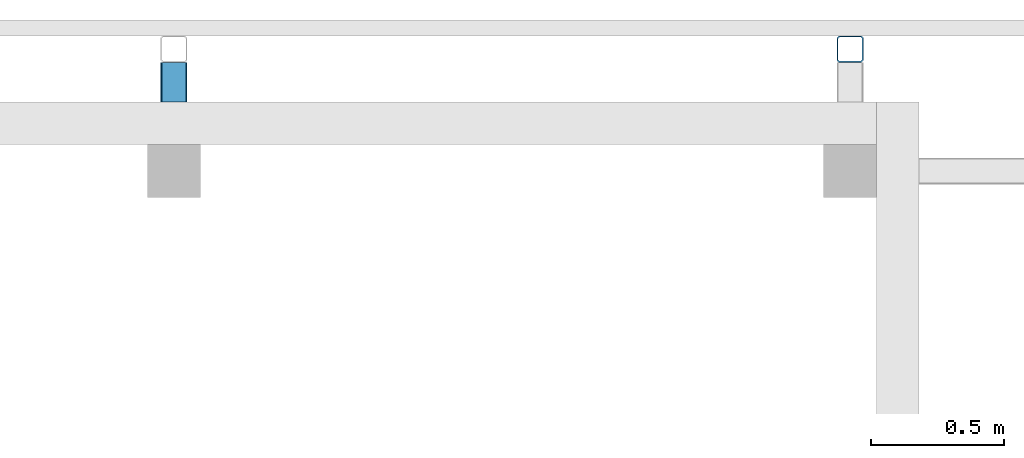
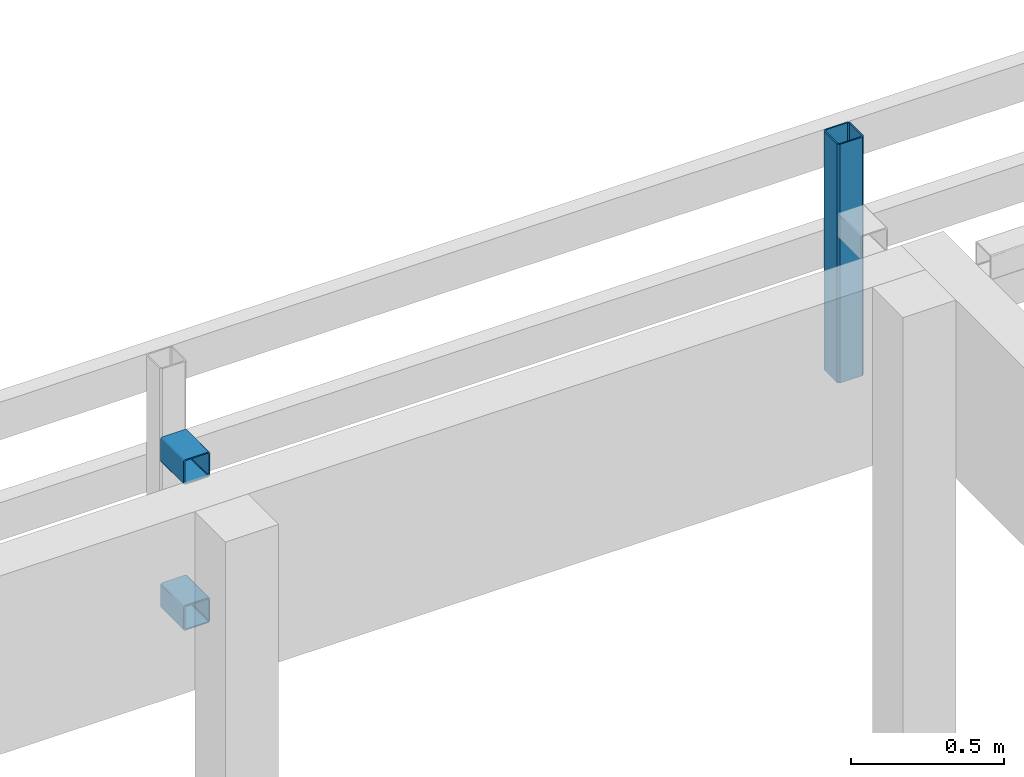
# One storey, part 40 of 42: 3 members.
"""IFC4 building model written with IfcOpenShell, lengths in metres."""

from ifc_helpers import new_model, entity, si_unit, converted_unit, derived_unit, frame, origin, place, context, subcontext, project, spatial, faceted_brep, material, element, save


model = new_model("IFC4")

# Units and contexts
model_context = context("Model", 3, precision=1e-05, world=origin())
plan_context = context("Plan", 2, precision=1e-05, world=origin())
body_context = subcontext(model_context, "Body", "Model", "MODEL_VIEW")
ifc_project = project(units=[si_unit("LENGTHUNIT", "METRE"), si_unit("AREAUNIT", "SQUARE_METRE"), si_unit("VOLUMEUNIT", "CUBIC_METRE"), si_unit("MASSUNIT", "GRAM", prefix="KILO"), converted_unit("PLANEANGLEUNIT", "DEGREE", entity("IfcPlaneAngleMeasure", 0.0174532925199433), si_unit("PLANEANGLEUNIT", "RADIAN"), dimensions=[0, 0, 0, 0, 0, 0, 0]), derived_unit("THERMALTRANSMITTANCEUNIT", [(si_unit("POWERUNIT", "WATT"), 1), (si_unit("THERMODYNAMICTEMPERATUREUNIT", "KELVIN"), -1), (si_unit("LENGTHUNIT", "METRE"), -2)]), derived_unit("VOLUMETRICFLOWRATEUNIT", [(si_unit("LENGTHUNIT", "METRE"), 3), (converted_unit("TIMEUNIT", "hour", entity("IfcTimeMeasure", 3600.0), si_unit("TIMEUNIT", "SECOND"), dimensions=[0, 0, 1, 0, 0, 0, 0]), -1), (si_unit("LENGTHUNIT", "METRE"), -1)])], contexts=[model_context, plan_context])

# Site, building, storey
site_placement = place(None, origin())
site = spatial("IfcSite", under=ifc_project, at=site_placement, Name="Site", CompositionType="ELEMENT")
building_placement = place(site_placement, origin())
building = spatial("IfcBuilding", under=site, at=building_placement, Name="Admin", CompositionType="ELEMENT")
storey_placement = place(building_placement, frame((0.0, 0.0, 6.61)))
storey = spatial("IfcBuildingStorey", under=building, at=storey_placement, Name="02-Etage2", CompositionType="ELEMENT", Elevation=6.61)

# Members
ifc_material_1 = material(Name="S235")
member_1_placement = place(storey_placement, frame((57.9097996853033, 22.4994493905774, 2.28)))
element("IfcMember", 1, at=member_1_placement, inside=storey, material=ifc_material_1, Name="Bandeau R+2", context=body_context, shape_type="Brep", body=[
    faceted_brep([(0.09, 0.005, 0.0), (0.09, 0.005, 0.95), (0.01, 0.005, 0.95), (0.01, 0.005, 0.0), (0.095, 0.01, 0.0), (0.095, 0.01, 0.95), (0.095, 0.09, 0.0), (0.095, 0.09, 0.95), (0.09, 0.095, 0.0), (0.09, 0.095, 0.95), (0.01, 0.095, 0.0), (0.01, 0.095, 0.95), (0.005, 0.09, 0.0), (0.005, 0.09, 0.95), (0.005, 0.01, 0.0), (0.005, 0.01, 0.95), (0.0, 0.0075, 0.0), (0.0, 0.0075, 0.95), (0.0075, 0.0, 0.95), (0.0075, 0.0, 0.0), (0.0, 0.0925, 0.0), (0.0, 0.0925, 0.95), (0.0075, 0.1, 0.0), (0.0075, 0.1, 0.95), (0.0925, 0.1, 0.0), (0.0925, 0.1, 0.95), (0.1, 0.0925, 0.0), (0.1, 0.0925, 0.95), (0.1, 0.0075, 0.0), (0.1, 0.0075, 0.95), (0.0925, 0.0, 0.0), (0.0925, 0.0, 0.95)], [[[0, 1, 2, 3]], [[4, 5, 1, 0]], [[6, 7, 5, 4]], [[8, 9, 7, 6]], [[10, 11, 9, 8]], [[12, 13, 11, 10]], [[14, 15, 13, 12]], [[3, 2, 15, 14]], [[16, 17, 18, 19]], [[20, 21, 17, 16]], [[22, 23, 21, 20]], [[24, 25, 23, 22]], [[26, 27, 25, 24]], [[28, 29, 27, 26]], [[30, 31, 29, 28]], [[19, 18, 31, 30]], [[18, 17, 21, 23, 25, 27, 29, 31], [2, 1, 5, 7, 9, 11, 13, 15]], [[19, 30, 28, 26, 24, 22, 20, 16], [3, 14, 12, 10, 8, 6, 4, 0]]], orient=[[False], [False], [False], [False], [False], [False], [False], [False], [False], [False], [False], [False], [False], [False], [False], [False], [False, False], [False, False]]),
])
ifc_material_2 = material(Name="S235")
member_2_placement = place(storey_placement, frame((55.3598005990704, 22.3494493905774, 2.86)))
element("IfcMember", 2, at=member_2_placement, inside=storey, material=ifc_material_2, Name="Bandeau R+2", context=body_context, shape_type="Brep", body=[
    faceted_brep([(0.00500000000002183, 0.149999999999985, 0.09), (0.00500000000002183, 0.149999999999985, 0.01), (0.005, 1.09139364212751e-14, 0.01), (0.005, 1.09139364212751e-14, 0.09), (0.0050759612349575, 0.149999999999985, 0.0908682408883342), (0.00507596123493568, 1.09139364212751e-14, 0.0908682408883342), (0.00530153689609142, 0.149999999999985, 0.0917101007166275), (0.00530153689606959, 1.09139364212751e-14, 0.0917101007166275), (0.00566987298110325, 0.149999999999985, 0.0925), (0.00566987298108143, 1.09139364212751e-14, 0.0925), (0.00616977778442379, 0.149999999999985, 0.0932139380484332), (0.00616977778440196, 1.09139364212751e-14, 0.0932139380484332), (0.00678606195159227, 0.149999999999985, 0.0938302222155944), (0.00678606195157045, 1.09139364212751e-14, 0.0938302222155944), (0.00750000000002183, 0.149999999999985, 0.0943301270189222), (0.0075, 1.09139364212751e-14, 0.0943301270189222), (0.00828989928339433, 0.149999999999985, 0.0946984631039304), (0.00828989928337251, 1.09139364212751e-14, 0.0946984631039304), (0.00913175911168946, 0.149999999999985, 0.0949240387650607), (0.00913175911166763, 1.09139364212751e-14, 0.0949240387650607), (0.0100000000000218, 0.149999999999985, 0.095), (0.01, 1.09139364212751e-14, 0.095), (0.0900000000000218, 0.149999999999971, 0.095), (0.09, -3.63797880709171e-15, 0.095), (0.0908682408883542, 0.149999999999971, 0.0949240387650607), (0.0908682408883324, -3.63797880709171e-15, 0.0949240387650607), (0.0917101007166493, 0.149999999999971, 0.0946984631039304), (0.0917101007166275, -3.63797880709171e-15, 0.0946984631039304), (0.0925000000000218, 0.149999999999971, 0.0943301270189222), (0.0925, -3.63797880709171e-15, 0.0943301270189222), (0.0932139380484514, 0.149999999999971, 0.0938302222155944), (0.0932139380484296, -3.63797880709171e-15, 0.0938302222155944), (0.0938302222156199, 0.149999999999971, 0.0932139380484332), (0.093830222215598, -3.63797880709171e-15, 0.0932139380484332), (0.0943301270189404, 0.149999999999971, 0.0925), (0.0943301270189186, -3.63797880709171e-15, 0.0925), (0.0946984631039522, 0.149999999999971, 0.0917101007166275), (0.0946984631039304, -3.63797880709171e-15, 0.0917101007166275), (0.0949240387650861, 0.149999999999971, 0.0908682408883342), (0.0949240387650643, -3.63797880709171e-15, 0.0908682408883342), (0.0950000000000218, 0.149999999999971, 0.09), (0.095, -3.63797880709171e-15, 0.09), (0.0950000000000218, 0.149999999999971, 0.01), (0.095, -3.63797880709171e-15, 0.01), (0.0949240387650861, 0.149999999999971, 0.00913175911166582), (0.0949240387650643, -3.63797880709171e-15, 0.00913175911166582), (0.0946984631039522, 0.149999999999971, 0.00828989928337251), (0.0946984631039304, -3.63797880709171e-15, 0.00828989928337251), (0.0943301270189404, 0.149999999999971, 0.0075), (0.0943301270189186, -3.63797880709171e-15, 0.0075), (0.0938302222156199, 0.149999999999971, 0.00678606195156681), (0.093830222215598, -3.63797880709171e-15, 0.00678606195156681), (0.0932139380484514, 0.149999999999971, 0.0061697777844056), (0.0932139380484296, -3.63797880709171e-15, 0.0061697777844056), (0.0925000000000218, 0.149999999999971, 0.00566987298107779), (0.0925, -3.63797880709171e-15, 0.00566987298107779), (0.0917101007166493, 0.149999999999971, 0.00530153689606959), (0.0917101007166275, -3.63797880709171e-15, 0.00530153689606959), (0.0908682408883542, 0.149999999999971, 0.00507596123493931), (0.0908682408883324, -3.63797880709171e-15, 0.00507596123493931), (0.0900000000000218, 0.149999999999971, 0.005), (0.09, -3.63797880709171e-15, 0.005), (0.0100000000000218, 0.149999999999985, 0.005), (0.01, 1.09139364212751e-14, 0.005), (0.00913175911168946, 0.149999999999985, 0.00507596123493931), (0.00913175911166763, 1.09139364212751e-14, 0.00507596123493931), (0.00828989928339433, 0.149999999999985, 0.00530153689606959), (0.00828989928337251, 1.09139364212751e-14, 0.00530153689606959), (0.00750000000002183, 0.149999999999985, 0.00566987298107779), (0.0075, 1.09139364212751e-14, 0.00566987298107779), (0.00678606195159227, 0.149999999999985, 0.0061697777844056), (0.00678606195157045, 1.09139364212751e-14, 0.0061697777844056), (0.00616977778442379, 0.149999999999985, 0.00678606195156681), (0.00616977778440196, 1.09139364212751e-14, 0.00678606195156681), (0.00566987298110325, 0.149999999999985, 0.0075), (0.00566987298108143, 1.09139364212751e-14, 0.0075), (0.00530153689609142, 0.149999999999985, 0.00828989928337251), (0.00530153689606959, 1.09139364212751e-14, 0.00828989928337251), (0.0050759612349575, 0.149999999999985, 0.00913175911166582), (0.00507596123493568, 1.09139364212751e-14, 0.00913175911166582), (0.0925000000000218, 0.149999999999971, 0.1), (0.0938023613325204, 0.149999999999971, 0.099886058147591), (0.0938023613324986, -3.63797880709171e-15, 0.099886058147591), (0.0925, -3.63797880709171e-15, 0.1), (0.00750000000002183, 0.149999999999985, 0.1), (0.0075, 1.09139364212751e-14, 0.1), (0.00619763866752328, 0.149999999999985, 0.099886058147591), (0.00619763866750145, 1.09139364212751e-14, 0.099886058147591), (0.00493484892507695, 0.149999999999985, 0.0995476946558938), (0.00493484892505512, 1.09139364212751e-14, 0.0995476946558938), (0.00375000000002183, 0.149999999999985, 0.0989951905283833), (0.00375, 1.09139364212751e-14, 0.0989951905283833), (0.00267909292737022, 0.149999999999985, 0.0982453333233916), (0.00267909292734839, 1.09139364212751e-14, 0.0982453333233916), (0.0017546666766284, 0.149999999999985, 0.0973209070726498), (0.00175466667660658, 1.09139364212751e-14, 0.0973209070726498), (0.00100480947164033, 0.149999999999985, 0.09625), (0.0010048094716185, 1.09139364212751e-14, 0.09625), (0.000452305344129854, 0.149999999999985, 0.0950651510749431), (0.000452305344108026, 1.09139364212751e-14, 0.0950651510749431), (0.000113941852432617, 0.149999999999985, 0.0938023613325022), (0.00011394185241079, 1.09139364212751e-14, 0.0938023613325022), (2.18278728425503e-14, 0.149999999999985, 0.0925), (0.0, 1.09139364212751e-14, 0.0925), (0.000113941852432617, 0.149999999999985, 0.00619763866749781), (2.18278728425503e-14, 0.149999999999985, 0.0075), (0.0, 1.09139364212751e-14, 0.0075), (0.00011394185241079, 1.09139364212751e-14, 0.00619763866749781), (0.000452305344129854, 0.149999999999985, 0.00493484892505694), (0.000452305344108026, 1.09139364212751e-14, 0.00493484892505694), (0.00100480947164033, 0.149999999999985, 0.00375), (0.0010048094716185, 1.09139364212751e-14, 0.00375), (0.0017546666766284, 0.149999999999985, 0.00267909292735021), (0.00175466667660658, 1.09139364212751e-14, 0.00267909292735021), (0.00267909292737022, 0.149999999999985, 0.00175466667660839), (0.00267909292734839, 1.09139364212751e-14, 0.00175466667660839), (0.00375000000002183, 0.149999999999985, 0.00100480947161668), (0.00375, 1.09139364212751e-14, 0.00100480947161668), (0.00493484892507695, 0.149999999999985, 0.000452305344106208), (0.00493484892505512, 1.09139364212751e-14, 0.000452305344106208), (0.00619763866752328, 0.149999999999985, 0.000113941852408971), (0.00619763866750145, 1.09139364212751e-14, 0.000113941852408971), (0.00750000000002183, 0.149999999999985, 0.0), (0.0075, 1.09139364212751e-14, 0.0), (0.0925000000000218, 0.149999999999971, 0.0), (0.0925, -3.63797880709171e-15, 0.0), (0.0938023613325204, 0.149999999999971, 0.000113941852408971), (0.0938023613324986, -3.63797880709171e-15, 0.000113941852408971), (0.0950651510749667, 0.149999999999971, 0.000452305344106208), (0.0950651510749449, -3.63797880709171e-15, 0.000452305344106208), (0.0962500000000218, 0.149999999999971, 0.00100480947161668), (0.09625, -3.63797880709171e-15, 0.00100480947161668), (0.0973209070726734, 0.149999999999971, 0.00175466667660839), (0.0973209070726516, -3.63797880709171e-15, 0.00175466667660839), (0.0982453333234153, 0.149999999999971, 0.00267909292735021), (0.0982453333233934, -3.63797880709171e-15, 0.00267909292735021), (0.0989951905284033, 0.149999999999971, 0.00375), (0.0989951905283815, -3.63797880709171e-15, 0.00375), (0.0995476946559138, 0.149999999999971, 0.00493484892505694), (0.099547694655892, -3.63797880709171e-15, 0.00493484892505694), (0.099886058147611, 0.149999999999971, 0.00619763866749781), (0.0998860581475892, -3.63797880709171e-15, 0.00619763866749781), (0.100000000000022, 0.149999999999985, 0.0075), (0.1, -3.63797880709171e-15, 0.0075), (0.099886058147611, 0.149999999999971, 0.0938023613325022), (0.100000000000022, 0.149999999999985, 0.0925), (0.1, -3.63797880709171e-15, 0.0925), (0.0998860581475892, -3.63797880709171e-15, 0.0938023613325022), (0.0995476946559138, 0.149999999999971, 0.0950651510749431), (0.099547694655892, -3.63797880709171e-15, 0.0950651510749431), (0.0989951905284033, 0.149999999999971, 0.09625), (0.0989951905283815, -3.63797880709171e-15, 0.09625), (0.0982453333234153, 0.149999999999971, 0.0973209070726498), (0.0982453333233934, -3.63797880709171e-15, 0.0973209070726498), (0.0973209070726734, 0.149999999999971, 0.0982453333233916), (0.0973209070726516, -3.63797880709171e-15, 0.0982453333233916), (0.0962500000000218, 0.149999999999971, 0.0989951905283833), (0.09625, -3.63797880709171e-15, 0.0989951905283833), (0.0950651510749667, 0.149999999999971, 0.0995476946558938), (0.0950651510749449, -3.63797880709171e-15, 0.0995476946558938)], [[[0, 1, 2, 3]], [[4, 0, 3, 5]], [[6, 4, 5, 7]], [[8, 6, 7, 9]], [[10, 8, 9, 11]], [[12, 10, 11, 13]], [[14, 12, 13, 15]], [[16, 14, 15, 17]], [[18, 16, 17, 19]], [[20, 18, 19, 21]], [[22, 20, 21, 23]], [[24, 22, 23, 25]], [[26, 24, 25, 27]], [[28, 26, 27, 29]], [[30, 28, 29, 31]], [[32, 30, 31, 33]], [[34, 32, 33, 35]], [[36, 34, 35, 37]], [[38, 36, 37, 39]], [[40, 38, 39, 41]], [[42, 40, 41, 43]], [[44, 42, 43, 45]], [[46, 44, 45, 47]], [[48, 46, 47, 49]], [[50, 48, 49, 51]], [[52, 50, 51, 53]], [[54, 52, 53, 55]], [[56, 54, 55, 57]], [[58, 56, 57, 59]], [[60, 58, 59, 61]], [[62, 60, 61, 63]], [[64, 62, 63, 65]], [[66, 64, 65, 67]], [[68, 66, 67, 69]], [[70, 68, 69, 71]], [[72, 70, 71, 73]], [[74, 72, 73, 75]], [[76, 74, 75, 77]], [[78, 76, 77, 79]], [[1, 78, 79, 2]], [[80, 81, 82, 83]], [[84, 80, 83, 85]], [[86, 84, 85, 87]], [[88, 86, 87, 89]], [[90, 88, 89, 91]], [[92, 90, 91, 93]], [[94, 92, 93, 95]], [[96, 94, 95, 97]], [[98, 96, 97, 99]], [[100, 98, 99, 101]], [[102, 100, 101, 103]], [[104, 105, 106, 107]], [[108, 104, 107, 109]], [[110, 108, 109, 111]], [[112, 110, 111, 113]], [[114, 112, 113, 115]], [[116, 114, 115, 117]], [[118, 116, 117, 119]], [[120, 118, 119, 121]], [[122, 120, 121, 123]], [[124, 122, 123, 125]], [[126, 124, 125, 127]], [[128, 126, 127, 129]], [[130, 128, 129, 131]], [[132, 130, 131, 133]], [[134, 132, 133, 135]], [[136, 134, 135, 137]], [[138, 136, 137, 139]], [[140, 138, 139, 141]], [[142, 140, 141, 143]], [[144, 145, 146, 147]], [[148, 144, 147, 149]], [[150, 148, 149, 151]], [[152, 150, 151, 153]], [[154, 152, 153, 155]], [[156, 154, 155, 157]], [[158, 156, 157, 159]], [[81, 158, 159, 82]], [[146, 143, 141, 139, 137, 135, 133, 131, 129, 127, 125, 123, 121, 119, 117, 115, 113, 111, 109, 107, 106, 103, 101, 99, 97, 95, 93, 91, 89, 87, 85, 83, 82, 159, 157, 155, 153, 151, 149, 147], [2, 79, 77, 75, 73, 71, 69, 67, 65, 63, 61, 59, 57, 55, 53, 51, 49, 47, 45, 43, 41, 39, 37, 35, 33, 31, 29, 27, 25, 23, 21, 19, 17, 15, 13, 11, 9, 7, 5, 3]], [[103, 106, 105, 102]], [[102, 105, 104, 108, 110, 112, 114, 116, 118, 120, 122, 124, 126, 128, 130, 132, 134, 136, 138, 140, 142, 145, 144, 148, 150, 152, 154, 156, 158, 81, 80, 84, 86, 88, 90, 92, 94, 96, 98, 100], [1, 0, 4, 6, 8, 10, 12, 14, 16, 18, 20, 22, 24, 26, 28, 30, 32, 34, 36, 38, 40, 42, 44, 46, 48, 50, 52, 54, 56, 58, 60, 62, 64, 66, 68, 70, 72, 74, 76, 78]], [[145, 142, 143, 146]]], orient=[[False], [False], [False], [False], [False], [False], [False], [False], [False], [False], [False], [False], [False], [False], [False], [False], [False], [False], [False], [False], [False], [False], [False], [False], [False], [False], [False], [False], [False], [False], [False], [False], [False], [False], [False], [False], [False], [False], [False], [False], [False], [False], [False], [False], [False], [False], [False], [False], [False], [False], [False], [False], [False], [False], [False], [False], [False], [False], [False], [False], [False], [False], [False], [False], [False], [False], [False], [False], [False], [False], [False], [False], [False], [False], [False], [False], [False], [False], [False, False], [False], [False, False], [False]]),
])
ifc_material_3 = material(Name="S235")
member_3_placement = place(storey_placement, frame((55.3598005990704, 22.3494493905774, 2.28)))
element("IfcMember", 3, at=member_3_placement, inside=storey, material=ifc_material_3, Name="Bandeau R+2", context=body_context, shape_type="Brep", body=[
    faceted_brep([(0.00500000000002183, 0.15, 0.09), (0.00500000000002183, 0.15, 0.01), (0.005, 1.81898940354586e-14, 0.01), (0.005, 1.81898940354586e-14, 0.09), (0.0050759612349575, 0.15, 0.0908682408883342), (0.00507596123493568, 1.81898940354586e-14, 0.0908682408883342), (0.00530153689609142, 0.15, 0.0917101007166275), (0.00530153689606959, 1.81898940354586e-14, 0.0917101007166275), (0.00566987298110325, 0.15, 0.0925), (0.00566987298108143, 1.81898940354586e-14, 0.0925), (0.00616977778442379, 0.15, 0.0932139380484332), (0.00616977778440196, 1.81898940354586e-14, 0.0932139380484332), (0.00678606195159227, 0.15, 0.0938302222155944), (0.00678606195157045, 1.81898940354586e-14, 0.0938302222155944), (0.00750000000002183, 0.15, 0.0943301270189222), (0.0075, 1.81898940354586e-14, 0.0943301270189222), (0.00828989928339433, 0.15, 0.0946984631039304), (0.00828989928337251, 1.81898940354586e-14, 0.0946984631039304), (0.00913175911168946, 0.15, 0.0949240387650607), (0.00913175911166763, 1.81898940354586e-14, 0.0949240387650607), (0.0100000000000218, 0.15, 0.095), (0.01, 1.81898940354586e-14, 0.095), (0.0900000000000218, 0.149999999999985, 0.095), (0.09, 3.63797880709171e-15, 0.095), (0.0908682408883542, 0.149999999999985, 0.0949240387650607), (0.0908682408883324, 3.63797880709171e-15, 0.0949240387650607), (0.0917101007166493, 0.149999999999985, 0.0946984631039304), (0.0917101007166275, 3.63797880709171e-15, 0.0946984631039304), (0.0925000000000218, 0.149999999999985, 0.0943301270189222), (0.0925, 3.63797880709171e-15, 0.0943301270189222), (0.0932139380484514, 0.149999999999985, 0.0938302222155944), (0.0932139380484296, 3.63797880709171e-15, 0.0938302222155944), (0.0938302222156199, 0.149999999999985, 0.0932139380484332), (0.093830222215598, 3.63797880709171e-15, 0.0932139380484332), (0.0943301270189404, 0.149999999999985, 0.0925), (0.0943301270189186, 3.63797880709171e-15, 0.0925), (0.0946984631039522, 0.149999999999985, 0.0917101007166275), (0.0946984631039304, 3.63797880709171e-15, 0.0917101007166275), (0.0949240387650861, 0.149999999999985, 0.0908682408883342), (0.0949240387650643, 3.63797880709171e-15, 0.0908682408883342), (0.0950000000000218, 0.149999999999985, 0.09), (0.095, 3.63797880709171e-15, 0.09), (0.0950000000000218, 0.149999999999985, 0.01), (0.095, 3.63797880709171e-15, 0.01), (0.0949240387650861, 0.149999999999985, 0.00913175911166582), (0.0949240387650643, 3.63797880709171e-15, 0.00913175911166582), (0.0946984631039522, 0.149999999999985, 0.00828989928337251), (0.0946984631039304, 3.63797880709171e-15, 0.00828989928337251), (0.0943301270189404, 0.149999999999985, 0.0075), (0.0943301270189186, 3.63797880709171e-15, 0.0075), (0.0938302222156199, 0.149999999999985, 0.00678606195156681), (0.093830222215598, 3.63797880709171e-15, 0.00678606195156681), (0.0932139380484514, 0.149999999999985, 0.0061697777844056), (0.0932139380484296, 3.63797880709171e-15, 0.0061697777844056), (0.0925000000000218, 0.149999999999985, 0.00566987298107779), (0.0925, 3.63797880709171e-15, 0.00566987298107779), (0.0917101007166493, 0.149999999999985, 0.00530153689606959), (0.0917101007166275, 3.63797880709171e-15, 0.00530153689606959), (0.0908682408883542, 0.149999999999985, 0.00507596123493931), (0.0908682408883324, 3.63797880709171e-15, 0.00507596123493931), (0.0900000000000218, 0.149999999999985, 0.005), (0.09, 3.63797880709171e-15, 0.005), (0.0100000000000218, 0.15, 0.005), (0.01, 1.81898940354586e-14, 0.005), (0.00913175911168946, 0.15, 0.00507596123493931), (0.00913175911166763, 1.81898940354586e-14, 0.00507596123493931), (0.00828989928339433, 0.15, 0.00530153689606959), (0.00828989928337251, 1.81898940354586e-14, 0.00530153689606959), (0.00750000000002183, 0.15, 0.00566987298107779), (0.0075, 1.81898940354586e-14, 0.00566987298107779), (0.00678606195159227, 0.15, 0.0061697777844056), (0.00678606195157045, 1.81898940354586e-14, 0.0061697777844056), (0.00616977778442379, 0.15, 0.00678606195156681), (0.00616977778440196, 1.81898940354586e-14, 0.00678606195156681), (0.00566987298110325, 0.15, 0.0075), (0.00566987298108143, 1.81898940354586e-14, 0.0075), (0.00530153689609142, 0.15, 0.00828989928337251), (0.00530153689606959, 1.81898940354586e-14, 0.00828989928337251), (0.0050759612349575, 0.15, 0.00913175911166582), (0.00507596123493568, 1.81898940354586e-14, 0.00913175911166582), (0.0925000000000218, 0.149999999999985, 0.1), (0.0938023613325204, 0.149999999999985, 0.099886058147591), (0.0938023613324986, 3.63797880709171e-15, 0.099886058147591), (0.0925, 3.63797880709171e-15, 0.1), (0.00750000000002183, 0.15, 0.1), (0.0075, 1.81898940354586e-14, 0.1), (0.00619763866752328, 0.15, 0.099886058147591), (0.00619763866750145, 1.81898940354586e-14, 0.099886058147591), (0.00493484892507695, 0.15, 0.0995476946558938), (0.00493484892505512, 1.81898940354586e-14, 0.0995476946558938), (0.00375000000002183, 0.15, 0.0989951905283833), (0.00375, 1.81898940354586e-14, 0.0989951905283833), (0.00267909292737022, 0.15, 0.0982453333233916), (0.00267909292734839, 1.81898940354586e-14, 0.0982453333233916), (0.0017546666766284, 0.15, 0.0973209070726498), (0.00175466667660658, 1.81898940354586e-14, 0.0973209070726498), (0.00100480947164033, 0.15, 0.09625), (0.0010048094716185, 1.81898940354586e-14, 0.09625), (0.000452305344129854, 0.15, 0.0950651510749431), (0.000452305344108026, 1.81898940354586e-14, 0.0950651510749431), (0.000113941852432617, 0.15, 0.0938023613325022), (0.00011394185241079, 1.81898940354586e-14, 0.0938023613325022), (2.18278728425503e-14, 0.15, 0.0925), (0.0, 1.81898940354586e-14, 0.0925), (0.000113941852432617, 0.15, 0.00619763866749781), (2.18278728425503e-14, 0.15, 0.0075), (0.0, 1.81898940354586e-14, 0.0075), (0.00011394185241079, 1.81898940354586e-14, 0.00619763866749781), (0.000452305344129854, 0.15, 0.00493484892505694), (0.000452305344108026, 1.81898940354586e-14, 0.00493484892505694), (0.00100480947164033, 0.15, 0.00375), (0.0010048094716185, 1.81898940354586e-14, 0.00375), (0.0017546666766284, 0.15, 0.00267909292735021), (0.00175466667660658, 1.81898940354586e-14, 0.00267909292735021), (0.00267909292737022, 0.15, 0.00175466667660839), (0.00267909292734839, 1.81898940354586e-14, 0.00175466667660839), (0.00375000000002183, 0.15, 0.00100480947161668), (0.00375, 1.81898940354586e-14, 0.00100480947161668), (0.00493484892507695, 0.15, 0.000452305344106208), (0.00493484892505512, 1.81898940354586e-14, 0.000452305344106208), (0.00619763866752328, 0.15, 0.000113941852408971), (0.00619763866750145, 1.81898940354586e-14, 0.000113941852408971), (0.00750000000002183, 0.15, 0.0), (0.0075, 1.81898940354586e-14, 0.0), (0.0925000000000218, 0.149999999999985, 0.0), (0.0925, 3.63797880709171e-15, 0.0), (0.0938023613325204, 0.149999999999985, 0.000113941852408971), (0.0938023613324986, 3.63797880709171e-15, 0.000113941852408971), (0.0950651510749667, 0.149999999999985, 0.000452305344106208), (0.0950651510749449, 3.63797880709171e-15, 0.000452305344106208), (0.0962500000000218, 0.149999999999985, 0.00100480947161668), (0.09625, 3.63797880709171e-15, 0.00100480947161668), (0.0973209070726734, 0.149999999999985, 0.00175466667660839), (0.0973209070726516, 3.63797880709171e-15, 0.00175466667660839), (0.0982453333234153, 0.149999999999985, 0.00267909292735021), (0.0982453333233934, 3.63797880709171e-15, 0.00267909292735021), (0.0989951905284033, 0.149999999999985, 0.00375), (0.0989951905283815, 3.63797880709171e-15, 0.00375), (0.0995476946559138, 0.149999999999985, 0.00493484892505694), (0.099547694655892, 3.63797880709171e-15, 0.00493484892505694), (0.099886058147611, 0.149999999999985, 0.00619763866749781), (0.0998860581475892, 3.63797880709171e-15, 0.00619763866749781), (0.100000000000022, 0.15, 0.0075), (0.1, 3.63797880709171e-15, 0.0075), (0.099886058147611, 0.149999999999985, 0.0938023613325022), (0.100000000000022, 0.15, 0.0925), (0.1, 3.63797880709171e-15, 0.0925), (0.0998860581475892, 3.63797880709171e-15, 0.0938023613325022), (0.0995476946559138, 0.149999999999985, 0.0950651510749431), (0.099547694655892, 3.63797880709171e-15, 0.0950651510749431), (0.0989951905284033, 0.149999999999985, 0.09625), (0.0989951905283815, 3.63797880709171e-15, 0.09625), (0.0982453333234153, 0.149999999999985, 0.0973209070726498), (0.0982453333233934, 3.63797880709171e-15, 0.0973209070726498), (0.0973209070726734, 0.149999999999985, 0.0982453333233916), (0.0973209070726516, 3.63797880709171e-15, 0.0982453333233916), (0.0962500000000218, 0.149999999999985, 0.0989951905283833), (0.09625, 3.63797880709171e-15, 0.0989951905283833), (0.0950651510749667, 0.149999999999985, 0.0995476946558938), (0.0950651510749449, 3.63797880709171e-15, 0.0995476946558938)], [[[0, 1, 2, 3]], [[4, 0, 3, 5]], [[6, 4, 5, 7]], [[8, 6, 7, 9]], [[10, 8, 9, 11]], [[12, 10, 11, 13]], [[14, 12, 13, 15]], [[16, 14, 15, 17]], [[18, 16, 17, 19]], [[20, 18, 19, 21]], [[22, 20, 21, 23]], [[24, 22, 23, 25]], [[26, 24, 25, 27]], [[28, 26, 27, 29]], [[30, 28, 29, 31]], [[32, 30, 31, 33]], [[34, 32, 33, 35]], [[36, 34, 35, 37]], [[38, 36, 37, 39]], [[40, 38, 39, 41]], [[42, 40, 41, 43]], [[44, 42, 43, 45]], [[46, 44, 45, 47]], [[48, 46, 47, 49]], [[50, 48, 49, 51]], [[52, 50, 51, 53]], [[54, 52, 53, 55]], [[56, 54, 55, 57]], [[58, 56, 57, 59]], [[60, 58, 59, 61]], [[62, 60, 61, 63]], [[64, 62, 63, 65]], [[66, 64, 65, 67]], [[68, 66, 67, 69]], [[70, 68, 69, 71]], [[72, 70, 71, 73]], [[74, 72, 73, 75]], [[76, 74, 75, 77]], [[78, 76, 77, 79]], [[1, 78, 79, 2]], [[80, 81, 82, 83]], [[84, 80, 83, 85]], [[86, 84, 85, 87]], [[88, 86, 87, 89]], [[90, 88, 89, 91]], [[92, 90, 91, 93]], [[94, 92, 93, 95]], [[96, 94, 95, 97]], [[98, 96, 97, 99]], [[100, 98, 99, 101]], [[102, 100, 101, 103]], [[104, 105, 106, 107]], [[108, 104, 107, 109]], [[110, 108, 109, 111]], [[112, 110, 111, 113]], [[114, 112, 113, 115]], [[116, 114, 115, 117]], [[118, 116, 117, 119]], [[120, 118, 119, 121]], [[122, 120, 121, 123]], [[124, 122, 123, 125]], [[126, 124, 125, 127]], [[128, 126, 127, 129]], [[130, 128, 129, 131]], [[132, 130, 131, 133]], [[134, 132, 133, 135]], [[136, 134, 135, 137]], [[138, 136, 137, 139]], [[140, 138, 139, 141]], [[142, 140, 141, 143]], [[144, 145, 146, 147]], [[148, 144, 147, 149]], [[150, 148, 149, 151]], [[152, 150, 151, 153]], [[154, 152, 153, 155]], [[156, 154, 155, 157]], [[158, 156, 157, 159]], [[81, 158, 159, 82]], [[146, 143, 141, 139, 137, 135, 133, 131, 129, 127, 125, 123, 121, 119, 117, 115, 113, 111, 109, 107, 106, 103, 101, 99, 97, 95, 93, 91, 89, 87, 85, 83, 82, 159, 157, 155, 153, 151, 149, 147], [2, 79, 77, 75, 73, 71, 69, 67, 65, 63, 61, 59, 57, 55, 53, 51, 49, 47, 45, 43, 41, 39, 37, 35, 33, 31, 29, 27, 25, 23, 21, 19, 17, 15, 13, 11, 9, 7, 5, 3]], [[103, 106, 105, 102]], [[102, 105, 104, 108, 110, 112, 114, 116, 118, 120, 122, 124, 126, 128, 130, 132, 134, 136, 138, 140, 142, 145, 144, 148, 150, 152, 154, 156, 158, 81, 80, 84, 86, 88, 90, 92, 94, 96, 98, 100], [1, 0, 4, 6, 8, 10, 12, 14, 16, 18, 20, 22, 24, 26, 28, 30, 32, 34, 36, 38, 40, 42, 44, 46, 48, 50, 52, 54, 56, 58, 60, 62, 64, 66, 68, 70, 72, 74, 76, 78]], [[145, 142, 143, 146]]], orient=[[False], [False], [False], [False], [False], [False], [False], [False], [False], [False], [False], [False], [False], [False], [False], [False], [False], [False], [False], [False], [False], [False], [False], [False], [False], [False], [False], [False], [False], [False], [False], [False], [False], [False], [False], [False], [False], [False], [False], [False], [False], [False], [False], [False], [False], [False], [False], [False], [False], [False], [False], [False], [False], [False], [False], [False], [False], [False], [False], [False], [False], [False], [False], [False], [False], [False], [False], [False], [False], [False], [False], [False], [False], [False], [False], [False], [False], [False], [False, False], [False], [False, False], [False]]),
])

save(model, "model.ifc")
